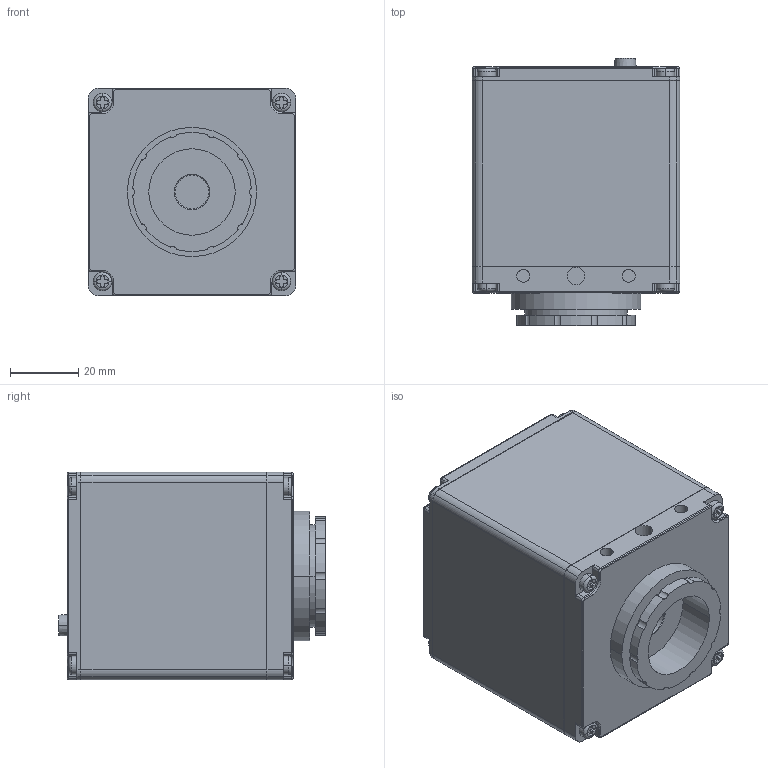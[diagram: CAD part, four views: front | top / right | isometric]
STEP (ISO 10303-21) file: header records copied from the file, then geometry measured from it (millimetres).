
FILE_DESCRIPTION(('STEP AP214'),'1');
FILE_NAME('GR200HD2.stp','2022-09-28T02:00:02',(' '),(' '),'Spatial InterOp 3D',' ',' ');
FILE_SCHEMA(('AUTOMOTIVE_DESIGN { 1 0 10303 214 1 1 1 1 }'));
Length unit declared in the file: metre
Products named in the file (2): GR200HD2; Component1
Assembly tree (1 placements, depth 2):
  GR200HD2
    Component1
Bounding box: 61 x 78.5 x 61 mm (x, y, z)
Volume: 241832.8 mm3; surface area: 31996.2 mm2
Topology: 1 solids, 1 shells, 879 faces, 2329 edges, 1506 vertices
Faces by surface type: cylinder 405, plane 350, torus 56, bspline 34, cone 30, sphere 4
Entity records: 29127 total; most frequent: CARTESIAN_POINT 6542, DIRECTION 4981, ORIENTED_EDGE 4642, EDGE_CURVE 2321, AXIS2_PLACEMENT_3D 1837, VERTEX_POINT 1506, LINE 1307, VECTOR 1307
